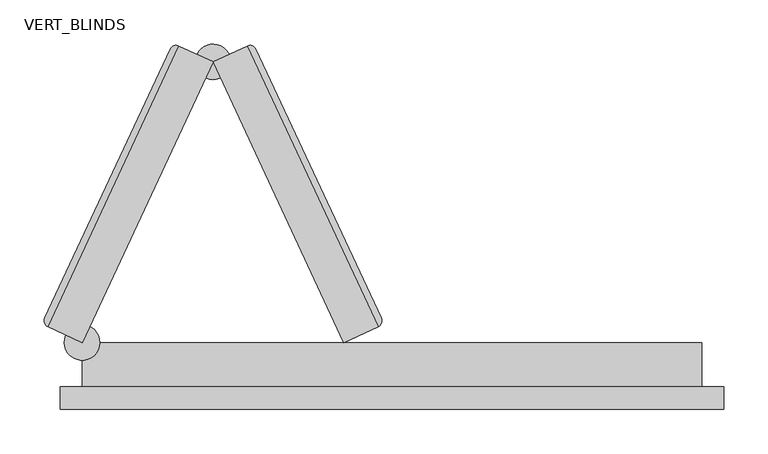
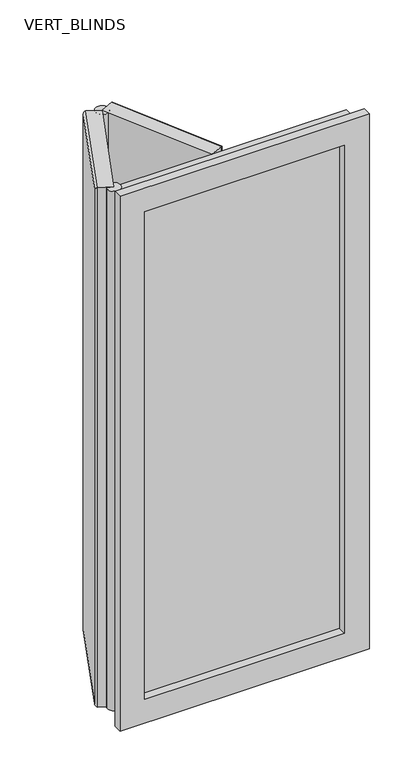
"""IFC4 building model written with IfcOpenShell, lengths in millimetres: plate geometry, CURTAIN PANEL VODA STYLE BIFOLDING : VERT_BLINDS."""

from ifc_helpers import new_model, si_unit, point, frame, frame_2d, origin, place, context, project, spatial, polyline, circle_curve, ellipse_curve, trimmed, segment, composite_curve, outline, extrude, faceted_brep, source, transform, mapped, element, save
from ifc_brep_helpers import plane_surface, cylinder_surface, advanced_brep


def vert_blinds_017c0e32(model_context):
    return source(origin(), model_context, "Body", "SolidModel", [
        advanced_brep(
        [(-350.0, 50.0, 1675.0), (-202.0836084, 367.2077255, 1675.0), (-240.6016893, 385.1690016, 1675.0), (-388.5180809, 67.9612761, 1675.0), (-202.0836084, 367.2077255, 25.0), (-350.0, 50.0, 25.0), (-388.5180809, 67.9612761, 25.0), (-240.6016893, 385.1690016, 25.0), (-392.1457524, 77.9282215, 32.5), (-392.1457524, 77.9282215, 1667.5), (-250.5686347, 381.5413301, 1667.5), (-250.5686347, 381.5413301, 32.5)],
        [
            (0, 1),
            (1, 2),
            (2, 3),
            (3, 0),
            (4, 5),
            (5, 6),
            (6, 7),
            (7, 4),
            (1, 4),
            (7, 2),
            (8, 9),
            (9, 10),
            (10, 11),
            (11, 8),
            (5, 0),
            (3, 6),
            (8, 6, ellipse_curve(frame((-385.348444, 74.7585845, 32.5), z_axis=(-0.2988362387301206, -0.6408563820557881, 0.7071067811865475), x_axis=(-0.2988362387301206, -0.640856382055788, -0.7071067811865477)), 10.6066017, 7.5)),
            (3, 9, ellipse_curve(frame((-385.348444, 74.7585845, 1667.5), z_axis=(-0.2988362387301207, -0.6408563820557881, -0.7071067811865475), x_axis=(0.2988362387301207, 0.6408563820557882, -0.7071067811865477)), 10.6066017, 7.5)),
            (11, 7, ellipse_curve(frame((-243.7713263, 378.3716932, 32.5), z_axis=(-0.2988362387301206, -0.6408563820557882, -0.7071067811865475), x_axis=(0.2988362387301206, 0.6408563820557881, -0.7071067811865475)), 10.6066017, 7.5)),
            (10, 2, ellipse_curve(frame((-243.7713263, 378.3716932, 1667.5), z_axis=(0.2988362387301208, 0.6408563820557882, -0.7071067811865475), x_axis=(0.2988362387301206, 0.6408563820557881, 0.7071067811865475)), 10.6066017, 7.5)),
        ],
        [
            plane_surface(frame((-247.3989977, 388.3386385, 1675.0), z_axis=(0.0, 0.0, 1.0), x_axis=(-0.9063077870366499, 0.42261826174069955, 0.0))),
            plane_surface(frame((-247.3989977, 388.3386385, 25.0), z_axis=(0.0, 0.0, -1.0), x_axis=(0.9063077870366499, -0.42261826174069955, 0.0))),
            plane_surface(frame((-202.0836084, 367.2077255, 1675.0), z_axis=(0.42261826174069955, 0.9063077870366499, 0.0), x_axis=(0.0, 0.0, -1.0))),
            plane_surface(frame((-247.3989977, 388.3386385, 1675.0), z_axis=(-0.9063077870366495, 0.4226182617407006, 0.0), x_axis=(0.0, 0.0, -1.0))),
            plane_surface(frame((-395.3153894, 71.1309131, 1675.0), z_axis=(-0.42261826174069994, -0.9063077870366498, 0.0), x_axis=(0.0, 0.0, -1.0))),
            plane_surface(frame((-350.0, 50.0, 1675.0), z_axis=(0.9063077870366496, -0.42261826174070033, 0.0), x_axis=(0.0, 0.0, -1.0))),
            cylinder_surface(frame((-385.348444, 74.7585845, 1675.0), z_axis=(0.0, 0.0, -1.0000000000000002), x_axis=(0.9063077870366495, -0.42261826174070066, 0.0)), 7.5),
            cylinder_surface(frame((-388.5180809, 67.9612761, 32.5), z_axis=(0.42261826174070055, 0.9063077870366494, 0.0), x_axis=(0.9063077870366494, -0.42261826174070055, 0.0)), 7.5),
            cylinder_surface(frame((-243.7713263, 378.3716932, 25.0), z_axis=(0.0, 0.0, 1.0), x_axis=(0.9063077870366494, -0.4226182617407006, 0.0)), 7.5),
            cylinder_surface(frame((-240.6016893, 385.1690016, 1667.5), z_axis=(-0.42261826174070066, -0.9063077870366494, 0.0), x_axis=(0.9063077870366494, -0.42261826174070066, 0.0)), 7.5),
        ],
        [
            (0, [[1, 2, 3, 4]]),
            (1, [[5, 6, 7, 8]]),
            (2, [[9, -8, 10, -2]]),
            (3, [[11, 12, 13, 14]]),
            (4, [[15, -4, 16, -6]]),
            (5, [[-1, -15, -5, -9]]),
            (6, [[17, -16, 18, -11]]),
            (7, [[-17, -14, 19, -7]]),
            (8, [[-19, -13, 20, -10]]),
            (9, [[-18, -3, -20, -12]]),
        ],
    ),
        advanced_brep(
        [(-202.0836084, 367.2077255, 1675.0), (-54.1672168, 50.0, 1675.0), (-15.6491358, 67.9612761, 1675.0), (-163.5655274, 385.1690016, 1675.0), (-54.1672168, 50.0, 25.0), (-202.0836084, 367.2077255, 25.0), (-163.5655274, 385.1690016, 25.0), (-15.6491358, 67.9612761, 25.0), (-153.5985821, 381.5413301, 32.5), (-153.5985821, 381.5413301, 1667.5), (-12.0214644, 77.9282215, 1667.5), (-12.0214644, 77.9282215, 32.5)],
        [
            (0, 1),
            (1, 2),
            (2, 3),
            (3, 0),
            (4, 5),
            (5, 6),
            (6, 7),
            (7, 4),
            (1, 4),
            (7, 2),
            (8, 9),
            (9, 10),
            (10, 11),
            (11, 8),
            (5, 0),
            (3, 6),
            (8, 6, ellipse_curve(frame((-160.3958905, 378.3716932, 32.5), z_axis=(-0.29883623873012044, 0.6408563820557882, 0.7071067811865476), x_axis=(-0.29883623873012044, 0.6408563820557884, -0.7071067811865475)), 10.6066017, 7.5)),
            (3, 9, ellipse_curve(frame((-160.3958905, 378.3716932, 1667.5), z_axis=(-0.29883623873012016, 0.6408563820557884, -0.7071067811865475), x_axis=(0.29883623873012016, -0.6408563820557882, -0.7071067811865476)), 10.6066017, 7.5)),
            (11, 7, ellipse_curve(frame((-18.8187728, 74.7585845, 32.5), z_axis=(-0.29883623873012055, 0.6408563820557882, -0.7071067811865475), x_axis=(0.29883623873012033, -0.6408563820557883, -0.7071067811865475)), 10.6066017, 7.5)),
            (10, 2, ellipse_curve(frame((-18.8187728, 74.7585845, 1667.5), z_axis=(0.2988362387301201, -0.6408563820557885, -0.7071067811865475), x_axis=(0.2988362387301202, -0.6408563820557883, 0.7071067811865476)), 10.6066017, 7.5)),
        ],
        [
            plane_surface(frame((-8.8518274, 71.1309131, 1675.0), z_axis=(0.0, 0.0, 1.0000000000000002), x_axis=(0.9063077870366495, 0.4226182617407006, 0.0))),
            plane_surface(frame((-8.8518274, 71.1309131, 25.0), z_axis=(0.0, 0.0, -1.0000000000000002), x_axis=(-0.9063077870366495, -0.4226182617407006, 0.0))),
            plane_surface(frame((-54.1672168, 50.0, 1675.0), z_axis=(0.4226182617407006, -0.9063077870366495, 0.0), x_axis=(0.0, 0.0, -1.0))),
            plane_surface(frame((-8.8518274, 71.1309131, 1675.0), z_axis=(0.9063077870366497, 0.42261826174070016, 0.0), x_axis=(0.0, 0.0, -1.0))),
            plane_surface(frame((-156.768219, 388.3386385, 1675.0), z_axis=(-0.4226182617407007, 0.9063077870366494, 0.0), x_axis=(0.0, 0.0, -1.0))),
            plane_surface(frame((-202.0836084, 367.2077255, 1675.0), z_axis=(-0.9063077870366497, -0.4226182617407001, 0.0), x_axis=(0.0, 0.0, -1.0))),
            cylinder_surface(frame((-160.3958905, 378.3716932, 1675.0), z_axis=(0.0, 0.0, -1.0), x_axis=(-0.9063077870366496, -0.42261826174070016, 0.0)), 7.5),
            cylinder_surface(frame((-163.5655274, 385.1690016, 32.5), z_axis=(0.42261826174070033, -0.9063077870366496, 0.0), x_axis=(-0.9063077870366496, -0.42261826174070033, 0.0)), 7.5),
            cylinder_surface(frame((-18.8187728, 74.7585845, 25.0), z_axis=(0.0, 0.0, 1.0000000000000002), x_axis=(-0.9063077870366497, -0.4226182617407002, 0.0)), 7.5),
            cylinder_surface(frame((-15.6491358, 67.9612761, 1667.5), z_axis=(-0.4226182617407, 0.9063077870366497, 0.0), x_axis=(-0.9063077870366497, -0.4226182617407, 0.0)), 7.5),
        ],
        [
            (0, [[1, 2, 3, 4]]),
            (1, [[5, 6, 7, 8]]),
            (2, [[9, -8, 10, -2]]),
            (3, [[11, 12, 13, 14]]),
            (4, [[15, -4, 16, -6]]),
            (5, [[-1, -15, -5, -9]]),
            (6, [[17, -16, 18, -11]]),
            (7, [[-17, -14, 19, -7]]),
            (8, [[-19, -13, 20, -10]]),
            (9, [[-18, -3, -20, -12]]),
        ],
    ),
        extrude(outline(composite_curve([segment(trimmed(circle_curve(frame_2d((-350.0, 50.0)), 20.0), [point((-370.0, 50.0))], [point((-330.0, 50.0))], False, "CARTESIAN"), True, "CONTINUOUS"), segment(trimmed(circle_curve(frame_2d((-350.0, 50.0)), 20.0), [point((-330.0, 50.0))], [point((-370.0, 50.0))], False, "CARTESIAN"), True, "CONTINUOUS")], self_intersect=False)), frame((0.0, 0.0, 25.0), z_axis=(0.0, 0.0, 1.0), x_axis=(1.0, 0.0, 0.0)), (0.0, 0.0, 1.0), 1650.0),
        extrude(outline(composite_curve([segment(trimmed(circle_curve(frame_2d((-202.0836084, 367.2077255)), 20.0), [point((-210.5359736, 349.0815697))], [point((-193.6312432, 385.3338812))], False, "CARTESIAN"), True, "CONTINUOUS"), segment(trimmed(circle_curve(frame_2d((-202.0836084, 367.2077255)), 20.0), [point((-193.6312432, 385.3338812))], [point((-210.5359736, 349.0815697))], False, "CARTESIAN"), True, "CONTINUOUS")], self_intersect=False)), frame((0.0, 0.0, 25.0), z_axis=(0.0, 0.0, 1.0), x_axis=(1.0, 0.0, 0.0)), (0.0, 0.0, 1.0), 1650.0),
        extrude(outline(polyline([(-300.0, 24.0), (300.0, 24.0), (300.0, 0.0), (-300.0, 0.0), (-300.0, 24.0)])), frame((0.0, 0.0, 75.0), z_axis=(0.0, 0.0, 1.0), x_axis=(1.0, 0.0, 0.0)), (0.0, 0.0, 1.0), 1550.0),
        faceted_brep([(-300.0, 50.0, 1625.0), (-300.0, -25.0, 1625.0), (-300.0, -25.0, 75.0), (-300.0, 50.0, 75.0), (-375.0, -25.0, 1700.0), (-375.0, 0.0, 1700.0), (-375.0, 0.0, 0.0), (-375.0, -25.0, 0.0), (-350.0, 0.0, 1675.0), (-350.0, 50.0, 1675.0), (-350.0, 50.0, 25.0), (-350.0, 0.0, 25.0), (300.0, -25.0, 75.0), (300.0, 50.0, 75.0), (375.0, 0.0, 0.0), (375.0, -25.0, 0.0), (350.0, 50.0, 25.0), (350.0, 0.0, 25.0), (300.0, -25.0, 1625.0), (300.0, 50.0, 1625.0), (375.0, 0.0, 1700.0), (375.0, -25.0, 1700.0), (350.0, 50.0, 1675.0), (350.0, 0.0, 1675.0)], [[[0, 1, 2, 3]], [[4, 5, 6, 7]], [[8, 9, 10, 11]], [[3, 2, 12, 13]], [[7, 6, 14, 15]], [[11, 10, 16, 17]], [[13, 12, 18, 19]], [[15, 14, 20, 21]], [[17, 16, 22, 23]], [[9, 22, 16, 10], [3, 13, 19, 0]], [[19, 18, 1, 0]], [[7, 15, 21, 4], [1, 18, 12, 2]], [[21, 20, 5, 4]], [[5, 20, 14, 6], [11, 17, 23, 8]], [[23, 22, 9, 8]]]),
    ])


if __name__ == "__main__":
    model = new_model("IFC4")
    model_context = context("Model", 3, world=origin())
    ifc_project = project(units=[si_unit("LENGTHUNIT", "METRE", prefix="MILLI")], contexts=[model_context])
    site = spatial("IfcSite", under=ifc_project)
    building = spatial("IfcBuilding", under=site)
    placement = place(None, origin())
    vert_blinds_shape = vert_blinds_017c0e32(model_context)
    element("IfcPlate", 1, ObjectType="CURTAIN PANEL VODA STYLE BIFOLDING : VERT_BLINDS", at=placement, inside=building, context=model_context, shape_type="MappedRepresentation", body=[
        mapped(vert_blinds_shape, transform((0.0, 0.0, 0.0), x_axis=(1.0, 0.0, 0.0), y_axis=(0.0, 1.0, 0.0), z_axis=(0.0, 0.0, 1.0))),
    ])
    save(model, "model.ifc")
